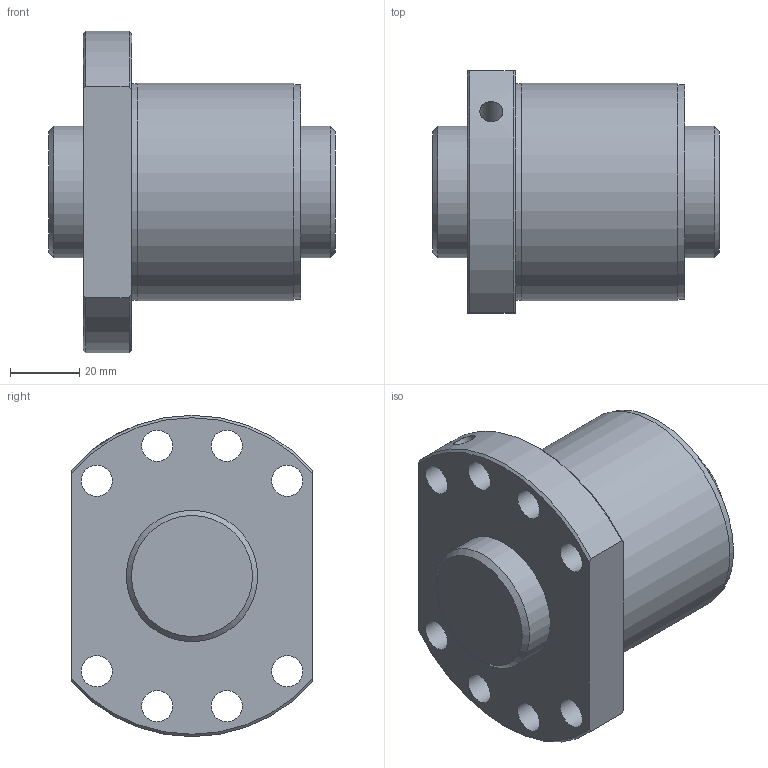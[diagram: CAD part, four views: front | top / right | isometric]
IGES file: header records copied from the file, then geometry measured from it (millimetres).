
Start section: Data from Parasolid IGES Translator 26.0.171, Copyright(c) 2006 Siemens PLM Software. All Rights Reserved.
Global section: file name: SDA3810V-5G0+83LC0(0G000).igs; native system: By Siemens PLM Incorporated; preprocessor: XPlus GENERIC/IGES 26.0.171; author: Noname; organization: Noname; date: 20240528.113329; units: millimetre
Bounding box: 83 x 70 x 93 mm (x, y, z)
Surface area: 45076.8 mm2 (no closed solid volume)
Topology: 0 solids, 0 shells, 33 faces, 154 edges, 128 vertices
Faces by surface type: revolution 24, extrusion 9
